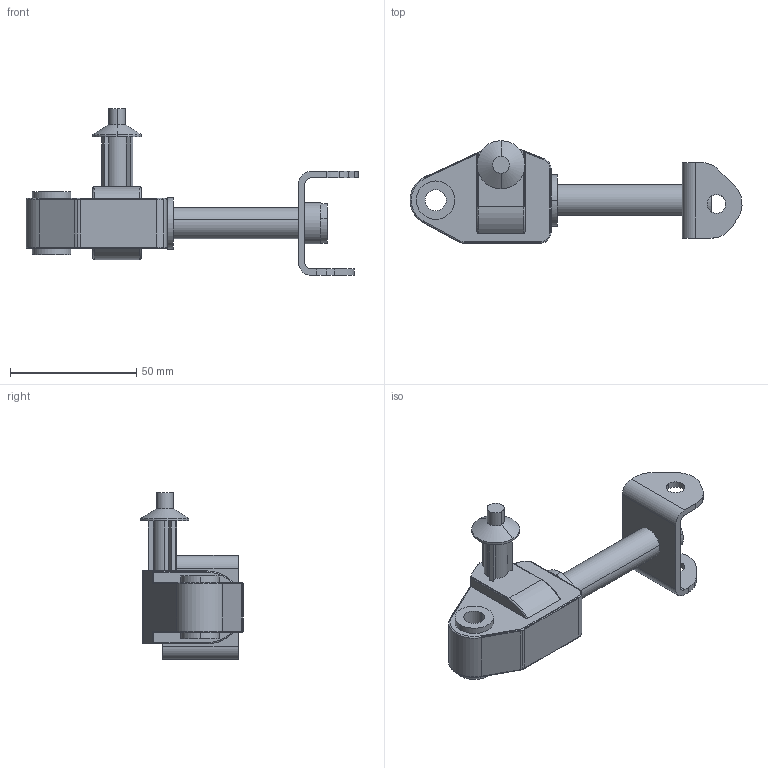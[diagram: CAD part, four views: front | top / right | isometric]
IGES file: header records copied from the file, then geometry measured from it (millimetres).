
Global section: file name: C:\Documents and Settings\Administrator\Desktop\Transfer Temp\actuatorright.igs; native system: AutoDesk Inventor R2.0 ; preprocessor: AutoDesk Inventor Iges Exporter R2.0; author: No Author specified; organization: No Organization specified; date: 20020121.134102; units: inch
Bounding box: 131.56 x 40.52 x 66.04 mm (x, y, z)
Surface area: 17975.2 mm2 (no closed solid volume)
Topology: 0 solids, 0 shells, 160 faces, 820 edges, 820 vertices
Faces by surface type: revolution 104, bspline 56
